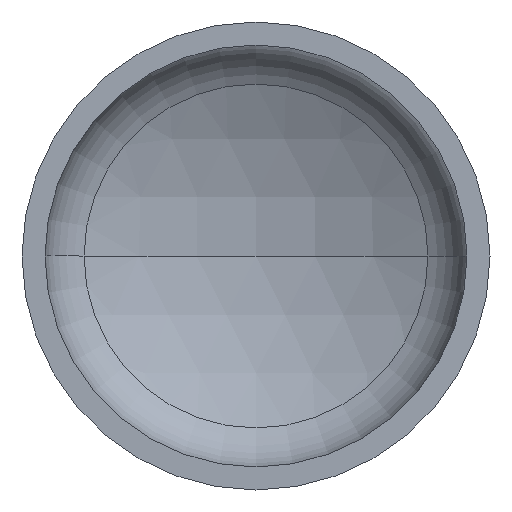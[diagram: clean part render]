
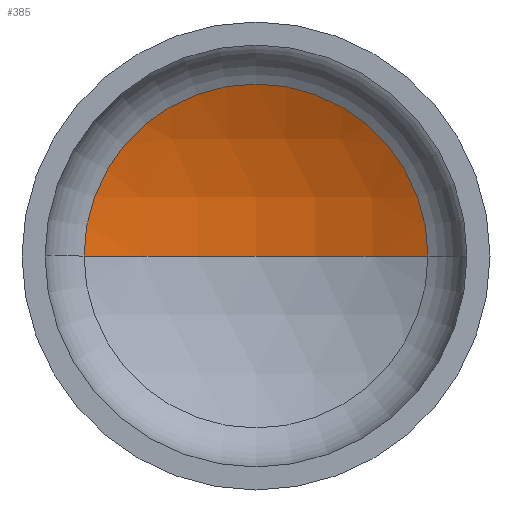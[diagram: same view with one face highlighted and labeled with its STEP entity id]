
A CAD part, front view. The second image highlights one B-rep face of the part: STEP entity #385.
In plain terms, the highlighted spherical face has radius 1920 mm.
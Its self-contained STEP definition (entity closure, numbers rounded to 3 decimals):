
#3 = CARTESIAN_POINT ( 'NONE',  ( 0., -1301.792, 0. ) ) ;
#4 = AXIS2_PLACEMENT_3D ( 'NONE', #83, #114, #123 ) ;
#10 = CIRCLE ( 'NONE', #4, 881.961 ) ;
#14 = AXIS2_PLACEMENT_3D ( 'NONE', #3, #16, #247 ) ;
#16 = DIRECTION ( 'NONE',  ( 0., 0., 1. ) ) ;
#22 = AXIS2_PLACEMENT_3D ( 'NONE', #139, #283, #92 ) ;
#27 = EDGE_LOOP ( 'NONE', ( #367, #381, #132 ) ) ;
#28 = VERTEX_POINT ( 'NONE', #260 ) ;
#38 = DIRECTION ( 'NONE',  ( -1., 0., 0. ) ) ;
#41 = CIRCLE ( 'NONE', #22, 1920. ) ;
#71 = VERTEX_POINT ( 'NONE', #323 ) ;
#83 = CARTESIAN_POINT ( 'NONE',  ( 0., 403.654, 0. ) ) ;
#92 = DIRECTION ( 'NONE',  ( -1., 0., 0. ) ) ;
#103 = AXIS2_PLACEMENT_3D ( 'NONE', #113, #270, #38 ) ;
#113 = CARTESIAN_POINT ( 'NONE',  ( 0., -1301.792, 0. ) ) ;
#114 = DIRECTION ( 'NONE',  ( 0., -1., 0. ) ) ;
#123 = DIRECTION ( 'NONE',  ( 1., 0., 0. ) ) ;
#132 = ORIENTED_EDGE ( 'NONE', *, *, #370, .T. ) ;
#139 = CARTESIAN_POINT ( 'NONE',  ( 0., -1301.792, 0. ) ) ;
#154 = FACE_OUTER_BOUND ( 'NONE', #27, .T. ) ;
#247 = DIRECTION ( 'NONE',  ( 1., 0., 0. ) ) ;
#258 = CIRCLE ( 'NONE', #14, 1920. ) ;
#260 = CARTESIAN_POINT ( 'NONE',  ( 881.961, 403.654, 0. ) ) ;
#270 = DIRECTION ( 'NONE',  ( 0., 0., -1. ) ) ;
#281 = CARTESIAN_POINT ( 'NONE',  ( 0., 618.208, 0. ) ) ;
#283 = DIRECTION ( 'NONE',  ( 0., 0., -1. ) ) ;
#323 = CARTESIAN_POINT ( 'NONE',  ( -881.961, 403.654, 0. ) ) ;
#348 = EDGE_CURVE ( 'NONE', #376, #28, #41, .T. ) ;
#351 = EDGE_CURVE ( 'NONE', #376, #71, #258, .T. ) ;
#367 = ORIENTED_EDGE ( 'NONE', *, *, #351, .F. ) ;
#370 = EDGE_CURVE ( 'NONE', #28, #71, #10, .T. ) ;
#376 = VERTEX_POINT ( 'NONE', #281 ) ;
#381 = ORIENTED_EDGE ( 'NONE', *, *, #348, .T. ) ;
#385 = ADVANCED_FACE ( 'NONE', ( #154 ), #409, .F. ) ;
#409 = SPHERICAL_SURFACE ( 'NONE', #103, 1920. ) ;
